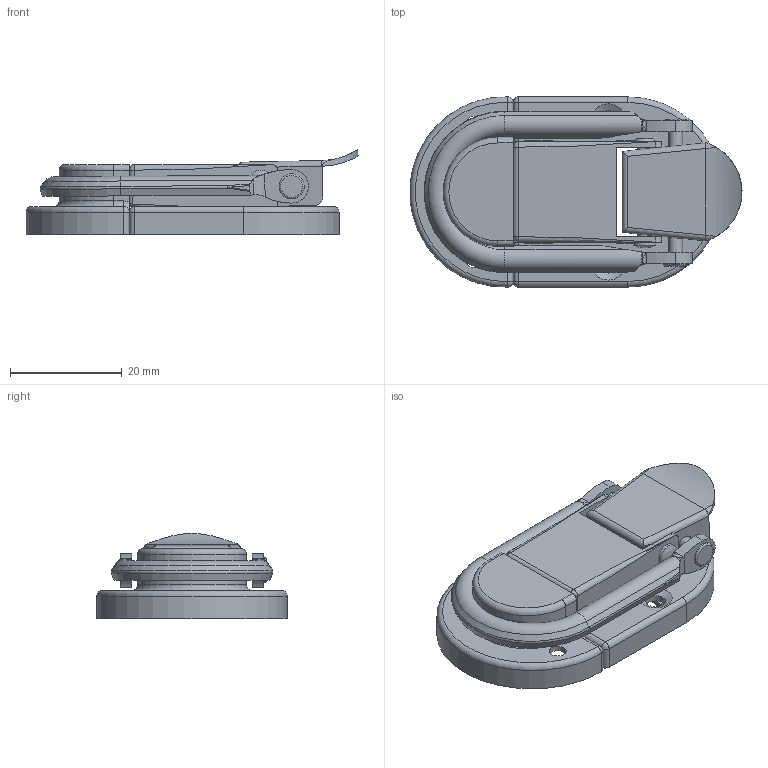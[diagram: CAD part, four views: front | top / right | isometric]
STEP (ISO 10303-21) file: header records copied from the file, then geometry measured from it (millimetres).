
FILE_DESCRIPTION(/* description */ (''),/* implementation_level */ '2;1');
FILE_NAME(/* name */ '\\NAS\db20\C-M28\DR_C-M28.stp',/* time_stamp */ '2018-03-01T14:32:57+09:00',/* author */ ('user'),/* organization */ (''),/* preprocessor_version */ 'ST-DEVELOPER v15.6',/* originating_system */ 'Autodesk Inventor 2015',/* authorisation */ '');
FILE_SCHEMA (('AUTOMOTIVE_DESIGN { 1 0 10303 214 3 1 1 }'));
Length unit declared in the file: millimetre
Products named in the file (5): DR_C-M28-BR; DR_C-M28-C; DR_C-M28-CA; DR_C-M28-P; DR_C-M28
Bounding box: 59.32 x 34 x 15.2 mm (x, y, z)
Volume: 5358.7 mm3; surface area: 10761.2 mm2
Topology: 6 solids, 6 shells, 321 faces, 819 edges, 506 vertices
Faces by surface type: plane 155, cylinder 94, bspline 35, torus 22, cone 9, sphere 6
Full cylindrical faces by diameter (mm): 2 x1, 2.5 x2, 3 x8, 3.5 x3, 4 x1, 4.5 x1
Entity records: 11206 total; most frequent: CARTESIAN_POINT 3628, ORIENTED_EDGE 1554, DIRECTION 1482, EDGE_CURVE 777, AXIS2_PLACEMENT_3D 525, VERTEX_POINT 500, LINE 432, VECTOR 432
